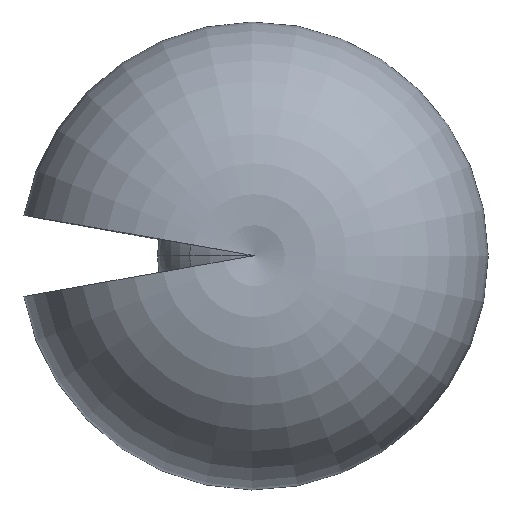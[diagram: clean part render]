
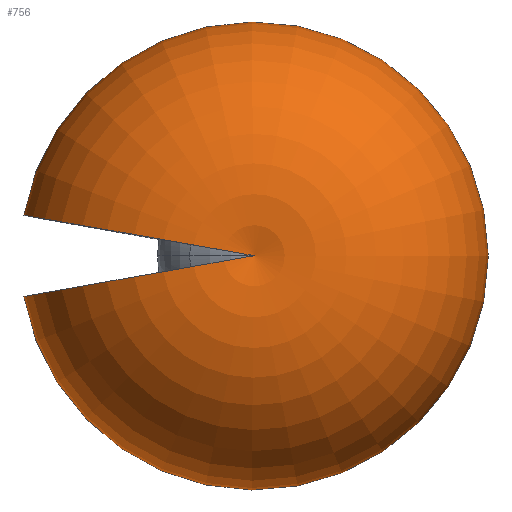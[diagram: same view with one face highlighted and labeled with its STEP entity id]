
A CAD part, top view. The second image highlights one B-rep face of the part: STEP entity #756.
In plain terms, the highlighted toroidal (fillet/blend) face has major radius 695 mm and minor radius 2409.29 mm.
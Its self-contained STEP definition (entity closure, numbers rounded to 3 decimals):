
#97 = DIRECTION ( 'NONE',  ( 0., 0., 1. ) ) ;
#115 = AXIS2_PLACEMENT_3D ( 'NONE', #276, #802, #1221 ) ;
#157 = CIRCLE ( 'NONE', #1085, 2409.294 ) ;
#188 = CARTESIAN_POINT ( 'NONE',  ( -1500.95, 263.776, -1733.996 ) ) ;
#218 = EDGE_CURVE ( 'NONE', #1094, #1068, #652, .T. ) ;
#276 = CARTESIAN_POINT ( 'NONE',  ( -5., 0., -1733.996 ) ) ;
#355 = ORIENTED_EDGE ( 'NONE', *, *, #372, .F. ) ;
#371 = DIRECTION ( 'NONE',  ( 0., 0., 1. ) ) ;
#372 = EDGE_CURVE ( 'NONE', #1068, #1268, #157, .T. ) ;
#426 = CARTESIAN_POINT ( 'NONE',  ( -5., 0., 2836.875 ) ) ;
#429 = DIRECTION ( 'NONE',  ( 0., 0., -1. ) ) ;
#526 = CARTESIAN_POINT ( 'NONE',  ( -1500.95, -263.776, -1733.996 ) ) ;
#530 = CARTESIAN_POINT ( 'NONE',  ( -5., 0., 530. ) ) ;
#595 = CARTESIAN_POINT ( 'NONE',  ( -689.441, 120.685, 530. ) ) ;
#614 = CARTESIAN_POINT ( 'NONE',  ( -689.441, -120.685, 530. ) ) ;
#652 = CIRCLE ( 'NONE', #115, 1519.027 ) ;
#740 = DIRECTION ( 'NONE',  ( -1., 0., 0. ) ) ;
#756 = ADVANCED_FACE ( 'NONE', ( #841 ), #1261, .T. ) ;
#784 = ORIENTED_EDGE ( 'NONE', *, *, #218, .F. ) ;
#802 = DIRECTION ( 'NONE',  ( 0., 0., -1. ) ) ;
#841 = FACE_OUTER_BOUND ( 'NONE', #1367, .T. ) ;
#891 = AXIS2_PLACEMENT_3D ( 'NONE', #595, #1320, #371 ) ;
#998 = AXIS2_PLACEMENT_3D ( 'NONE', #530, #429, #740 ) ;
#1013 = EDGE_CURVE ( 'NONE', #1094, #1268, #1088, .T. ) ;
#1026 = DIRECTION ( 'NONE',  ( -0.174, 0.985, 0. ) ) ;
#1068 = VERTEX_POINT ( 'NONE', #526 ) ;
#1085 = AXIS2_PLACEMENT_3D ( 'NONE', #614, #1026, #97 ) ;
#1088 = CIRCLE ( 'NONE', #891, 2409.294 ) ;
#1094 = VERTEX_POINT ( 'NONE', #188 ) ;
#1202 = ORIENTED_EDGE ( 'NONE', *, *, #1013, .T. ) ;
#1221 = DIRECTION ( 'NONE',  ( -1., 0., 0. ) ) ;
#1261 = TOROIDAL_SURFACE ( 'NONE', #998, 695., 2409.294 ) ;
#1268 = VERTEX_POINT ( 'NONE', #426 ) ;
#1320 = DIRECTION ( 'NONE',  ( 0.174, 0.985, 0. ) ) ;
#1367 = EDGE_LOOP ( 'NONE', ( #1202, #355, #784 ) ) ;
